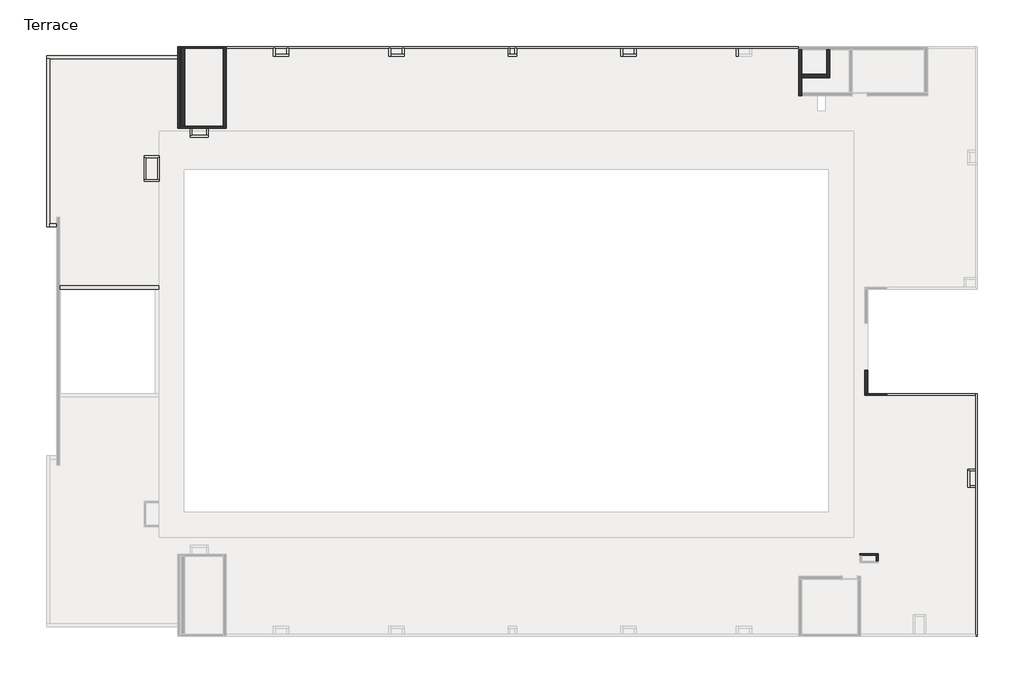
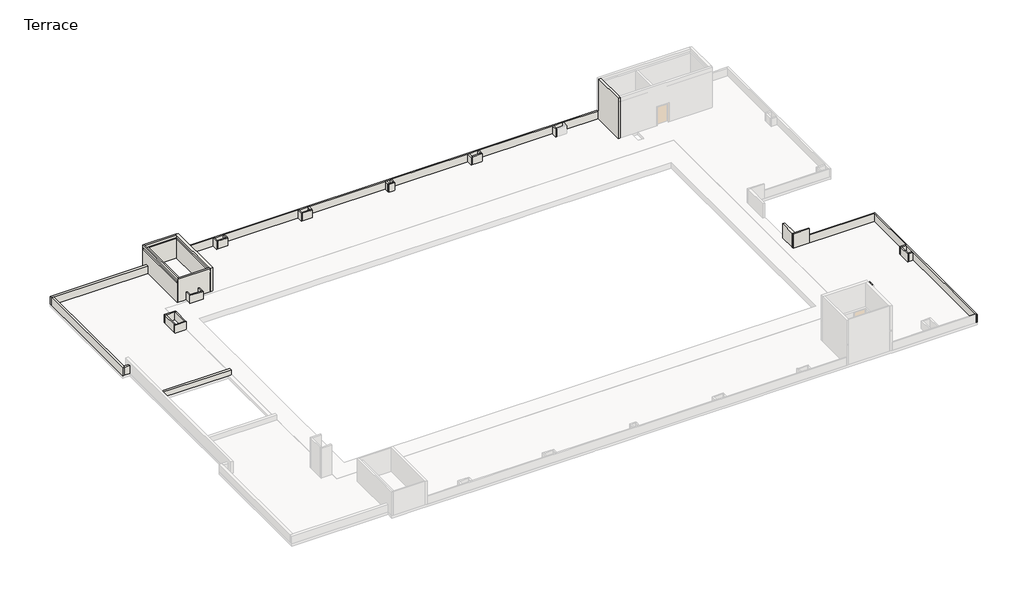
# One storey, part 2 of 3: 42 walls.
"""IFC4 building model written with IfcOpenShell, lengths in millimetres."""

import ifcopenshell
import ifcopenshell.guid

model = None  # the IFC model being written
_history = None  # IfcOwnerHistory: only IFC2X3 demands one
_inside = {}  # id of a spatial element -> (the spatial element, [elements in it])
_under = {}  # id of a project, library or spatial element -> (it, [spatial elements below it])
_declared = {}  # id of a project -> (the project, [libraries it declares])
_typed = {}  # id of a type object -> (the type object, [elements of that type])
_made_of = {}  # id of a material, layer set ... -> (it, [elements and type objects made of it])


def new_model(schema):
    """Start an empty IFC model of exactly this schema.

    Asked for "IFC4X3", IfcOpenShell would pick the latest addendum, in which some entities
    have other attributes; the version numbers below select the first issue.
    IFC2X3 requires an IfcOwnerHistory on every rooted entity: one is made here for all.
    """
    global model, _history
    if schema == "IFC4X3":
        model = ifcopenshell.file(schema_version=(4, 3, 0, 0))
    else:
        model = ifcopenshell.file(schema=schema)
    _inside.clear()
    _under.clear()
    _declared.clear()
    _typed.clear()
    _made_of.clear()
    _history = None
    if model.schema == "IFC2X3":
        org = make("IfcOrganization", Name="unknown")
        user = make(
            "IfcPersonAndOrganization",
            ThePerson=make("IfcPerson", FamilyName="unknown"),
            TheOrganization=org,
        )
        app = make(
            "IfcApplication",
            ApplicationDeveloper=org,
            Version="unknown",
            ApplicationFullName="unknown",
            ApplicationIdentifier="unknown",
        )
        _history = make(
            "IfcOwnerHistory",
            OwningUser=user,
            OwningApplication=app,
            ChangeAction="ADDED",
            CreationDate=0,
        )
    return model


def make(cls, **values):
    """One entity of the class cls with the attributes given. An attribute that is None is left unset."""
    return model.create_entity(
        cls, **{name: value for name, value in values.items() if value is not None}
    )


def rooted(cls, **values):
    """An entity with a GlobalId (a new one), such as an element, a storey or a relation."""
    return make(cls, GlobalId=ifcopenshell.guid.new(), OwnerHistory=_history, **values)


def si_unit(unit_type, name, prefix=None):
    """IfcSIUnit, for example si_unit("LENGTHUNIT", "METRE", prefix="MILLI")."""
    return make("IfcSIUnit", UnitType=unit_type, Prefix=prefix, Name=name)


def assignment(units):
    """IfcUnitAssignment: the units of a project."""
    return None if units is None else make("IfcUnitAssignment", Units=units)


def point(xyz):
    """IfcCartesianPoint."""
    return None if xyz is None else make("IfcCartesianPoint", Coordinates=xyz)


def direction(xyz):
    """IfcDirection."""
    return None if xyz is None else make("IfcDirection", DirectionRatios=xyz)


def frame(location, z_axis=None, x_axis=None):
    """IfcAxis2Placement3D, a coordinate frame: its origin and axes. An axis left out is left unset."""
    return make(
        "IfcAxis2Placement3D",
        Location=point(location),
        Axis=direction(z_axis),
        RefDirection=direction(x_axis),
    )


def origin():
    """The frame at (0, 0, 0) with its axes left unset."""
    return frame((0.0, 0.0, 0.0))


def place(relative_to, where):
    """IfcLocalPlacement: puts the frame where relative to a parent placement (None: the world)."""
    return make(
        "IfcLocalPlacement", PlacementRelTo=relative_to, RelativePlacement=where
    )


def context(
    kind, dimensions, precision=None, world=None, true_north=None, identifier=None
):
    """IfcGeometricRepresentationContext, for example the 3D "Model" context."""
    return make(
        "IfcGeometricRepresentationContext",
        ContextIdentifier=identifier,
        ContextType=kind,
        CoordinateSpaceDimension=dimensions,
        Precision=precision,
        WorldCoordinateSystem=world,
        TrueNorth=true_north,
    )


def project(units=None, contexts=None):
    """IfcProject with its units and contexts."""
    return rooted(
        "IfcProject",
        Name="project",
        RepresentationContexts=contexts,
        UnitsInContext=assignment(units),
    )


def spatial(cls, under=None, at=None, **own):
    """A site, building, storey or space (cls), placed at a placement, below another one or the project."""
    s = rooted(cls, ObjectPlacement=at, **own)
    if under is not None:
        _under.setdefault(under.id(), (under, []))[1].append(s)
    return s


def polyline(points):
    """IfcPolyline through the points."""
    return make("IfcPolyline", Points=[point(p) for p in points])


def outline(outer, holes=None, kind="AREA"):
    """IfcArbitraryClosedProfileDef: a profile drawn as a closed curve; with holes, ...WithVoids."""
    if holes is None:
        return make("IfcArbitraryClosedProfileDef", ProfileType=kind, OuterCurve=outer)
    return make(
        "IfcArbitraryProfileDefWithVoids",
        ProfileType=kind,
        OuterCurve=outer,
        InnerCurves=holes,
    )


def extrude(swept, where, along, depth):
    """IfcExtrudedAreaSolid: the profile swept, set in the frame where, extruded along a direction by depth."""
    return make(
        "IfcExtrudedAreaSolid",
        SweptArea=swept,
        Position=where,
        ExtrudedDirection=direction(along),
        Depth=depth,
    )


def faces_of(points, faces, orient=None, outer=None):
    """IfcFace entities. A face is a list of loops; a loop is a list of indices into points, from 0.

    orient and outer hold one flag for each loop. By default every Orientation is true, the
    first loop of a face is its IfcFaceOuterBound and the others are IfcFaceBound.
    """
    made = []
    for i, loops in enumerate(faces):
        bounds = []
        for j, loop in enumerate(loops):
            is_outer = j == 0 if outer is None else outer[i][j]
            bounds.append(
                make(
                    "IfcFaceOuterBound" if is_outer else "IfcFaceBound",
                    Bound=make("IfcPolyLoop", Polygon=[points[k] for k in loop]),
                    Orientation=True if orient is None else orient[i][j],
                )
            )
        made.append(make("IfcFace", Bounds=bounds))
    return made


def faceted_brep(points, faces, orient=None, outer=None, voids=None):
    """IfcFacetedBrep: a solid bounded by flat faces; with voids (closed shells), ...WithVoids."""
    shared = [point(p) for p in points]
    hull = make("IfcClosedShell", CfsFaces=faces_of(shared, faces, orient, outer))
    if voids is None:
        return make("IfcFacetedBrep", Outer=hull)
    return make(
        "IfcFacetedBrepWithVoids",
        Outer=hull,
        Voids=[
            make(cls, CfsFaces=faces_of(shared, fs, o, b)) for cls, fs, o, b in voids
        ],
    )


def shape(context_of_items, identifier, shape_type, items):
    """IfcShapeRepresentation: the items that make up one representation, for example the "Body"."""
    return make(
        "IfcShapeRepresentation",
        ContextOfItems=context_of_items,
        RepresentationIdentifier=identifier,
        RepresentationType=shape_type,
        Items=items,
    )


def made_of(thing, what):
    """Note that an element or type object is made of a material, layer set ...; save() writes the relation."""
    if what is not None:
        _made_of.setdefault(what.id(), (what, []))[1].append(thing)
    return thing


def element(
    cls,
    number,
    at=None,
    inside=None,
    cuts=None,
    type_object=None,
    material=None,
    context=None,
    identifier="Body",
    shape_type=None,
    held_by="IfcProductDefinitionShape",
    body=None,
    shapes=None,
    **own,
):
    """One element of the class cls, such as IfcWall. Its Tag is "e" and its number.

    at: its placement. inside: the storey or other place that contains it. cuts: it is an
    opening in that element (IfcRelVoidsElement). A single representation is given by context,
    identifier, shape_type and body (its items); several are given by shapes. held_by: the class
    of the entity that holds the representations. save() writes the other relations.
    """
    e = rooted(cls, Tag="e%d" % number, ObjectPlacement=at, **own)
    if body is not None:
        shapes = [shape(context, identifier, shape_type, body)]
    if shapes is not None:
        e.Representation = make(held_by, Representations=shapes)
    if inside is not None:
        _inside.setdefault(inside.id(), (inside, []))[1].append(e)
    if cuts is not None:
        rooted(
            "IfcRelVoidsElement", RelatingBuildingElement=cuts, RelatedOpeningElement=e
        )
    if type_object is not None:
        _typed.setdefault(type_object.id(), (type_object, []))[1].append(e)
    return made_of(e, material)


def aggregate(whole, parts):
    """IfcRelAggregates: a whole, such as a stair, and the parts it consists of."""
    return rooted("IfcRelAggregates", RelatingObject=whole, RelatedObjects=parts)


def save(model, path):
    """Write the relations noted so far, then the file.

    IfcRelAggregates (storeys below a building ...), IfcRelContainedInSpatialStructure (elements
    in a storey), IfcRelDefinesByType, IfcRelAssociatesMaterial and IfcRelDeclares: one each for
    every whole, place, type object, material and project.
    """
    for whole, parts in _under.values():
        aggregate(whole, parts)
    for where, things in _inside.values():
        rooted(
            "IfcRelContainedInSpatialStructure",
            RelatedElements=things,
            RelatingStructure=where,
        )
    for kind, things in _typed.values():
        rooted("IfcRelDefinesByType", RelatedObjects=things, RelatingType=kind)
    for what, things in _made_of.values():
        rooted("IfcRelAssociatesMaterial", RelatedObjects=things, RelatingMaterial=what)
    for by, libraries in _declared.values():
        rooted("IfcRelDeclares", RelatingContext=by, RelatedDefinitions=libraries)
    model.write(path)


model = new_model("IFC4")

# Units and contexts
model_context = context("Model", 3, world=origin())
ifc_project = project(units=[si_unit("LENGTHUNIT", "METRE", prefix="MILLI")], contexts=[model_context])

# Site, building, storey
site = spatial("IfcSite", under=ifc_project)
building = spatial("IfcBuilding", under=site)
storey = spatial("IfcBuildingStorey", under=building, Name="Terrace", Elevation=15000.0)

# Walls
placement = place(None, origin())
element("IfcWall", 1, ObjectType="wall-115", at=placement, inside=storey, context=model_context, shape_type="Brep", body=[
    faceted_brep([(5334.9134101, 20487.3851347, 15000.0), (6014.9134101, 20487.3851347, 15000.0), (6014.9134101, 20487.3851347, 15900.0), (5334.9134101, 20487.3851347, 15900.0), (5334.9134101, 20629.3851347, 15000.0), (5334.9134101, 20629.3851347, 15900.0), (5476.9134101, 20629.3851347, 15900.0), (5872.9134101, 20629.3851347, 15900.0), (6014.9134101, 20629.3851347, 15900.0), (6014.9134101, 20629.3851347, 15000.0), (5872.9134101, 20629.3851347, 15000.0), (5476.9134101, 20629.3851347, 15000.0)], [[[0, 1, 2, 3]], [[4, 5, 6, 7, 8, 9, 10, 11]], [[1, 0, 4, 11, 10, 9]], [[3, 2, 8, 7, 6, 5]], [[0, 3, 5, 4]], [[2, 1, 9, 8]]]),
])
element("IfcWall", 2, ObjectType="wall-115", at=placement, inside=storey, context=model_context, shape_type="Brep", body=[
    faceted_brep([(-22525.5865899, 10624.4013413, 15000.0), (-22667.5865899, 10624.4013413, 15000.0), (-23605.5865898, 10624.4013413, 15000.0), (-23747.5865898, 10624.4013413, 15000.0), (-23747.5865898, 10624.4013413, 15900.0), (-23605.5865898, 10624.4013413, 15900.0), (-22667.5865899, 10624.4013413, 15900.0), (-22525.5865899, 10624.4013413, 15900.0), (-22525.5865899, 10482.4013413, 15000.0), (-22525.5865899, 10482.4013413, 15900.0), (-23747.5865898, 10482.4013413, 15900.0), (-23747.5865898, 10482.4013413, 15000.0)], [[[0, 1, 2, 3, 4, 5, 6, 7]], [[8, 9, 10, 11]], [[3, 2, 1, 0, 8, 11]], [[7, 6, 5, 4, 10, 9]], [[4, 3, 11, 10]], [[0, 7, 9, 8]]]),
])
element("IfcWall", 3, ObjectType="wall-115", at=placement, inside=storey, context=model_context, shape_type="SweptSolid", body=[
    extrude(outline(polyline([(-23605.5865898, 12397.3851348), (-23605.5865898, 10624.4013413), (-23747.5865898, 10624.4013413), (-23747.5865898, 12397.3851348), (-23605.5865898, 12397.3851348)])), frame((0.0, 0.0, 15000.0), z_axis=(0.0, 0.0, 1.0), x_axis=(1.0, 0.0, 0.0)), (0.0, 0.0, 1.0), 900.0),
])
element("IfcWall", 4, ObjectType="wall-115", at=placement, inside=storey, context=model_context, shape_type="Brep", body=[
    faceted_brep([(-22525.5865899, 12539.3851348, 15000.0), (-23747.5865898, 12539.3851348, 15000.0), (-23747.5865898, 12539.3851348, 15900.0), (-22525.5865899, 12539.3851348, 15900.0), (-22525.5865899, 12397.3851348, 15000.0), (-22525.5865899, 12397.3851348, 15900.0), (-22667.5865899, 12397.3851348, 15900.0), (-23605.5865898, 12397.3851348, 15900.0), (-23747.5865898, 12397.3851348, 15900.0), (-23747.5865898, 12397.3851348, 15000.0), (-23605.5865898, 12397.3851348, 15000.0), (-22667.5865899, 12397.3851348, 15000.0)], [[[0, 1, 2, 3]], [[4, 5, 6, 7, 8, 9, 10, 11]], [[1, 0, 4, 11, 10, 9]], [[3, 2, 8, 7, 6, 5]], [[2, 1, 9, 8]], [[0, 3, 5, 4]]]),
])
element("IfcWall", 5, ObjectType="wall-115", at=placement, inside=storey, context=model_context, shape_type="Brep", body=[
    faceted_brep([(42824.4134101, -25834.6148653, 15000.0), (42824.4134101, -6457.6148653, 15000.0), (42824.4134101, -6457.6148653, 15900.0), (42824.4134101, -25834.6148653, 15900.0), (42682.4134101, -25834.6148653, 15000.0), (42682.4134101, -25834.6148653, 15900.0), (42682.4134101, -25692.6148653, 15900.0), (42682.4134101, -13949.6148653, 15900.0), (42682.4134101, -13807.6148653, 15900.0), (42682.4134101, -12637.6148653, 15900.0), (42682.4134101, -12495.6148653, 15900.0), (42682.4134101, -6599.6148653, 15900.0), (42682.4134101, -6457.6148653, 15900.0), (42682.4134101, -6457.6148653, 15000.0), (42682.4134101, -6599.6148653, 15000.0), (42682.4134101, -12495.6148653, 15000.0), (42682.4134101, -12637.6148653, 15000.0), (42682.4134101, -13807.6148653, 15000.0), (42682.4134101, -13949.6148653, 15000.0), (42682.4134101, -25692.6148653, 15000.0)], [[[0, 1, 2, 3]], [[4, 5, 6, 7, 8, 9, 10, 11, 12, 13, 14, 15, 16, 17, 18, 19]], [[1, 0, 4, 19, 18, 17, 16, 15, 14, 13]], [[3, 2, 12, 11, 10, 9, 8, 7, 6, 5]], [[2, 1, 13, 12]], [[0, 3, 5, 4]]]),
])
element("IfcWall", 6, ObjectType="wall-115", at=placement, inside=storey, context=model_context, shape_type="Brep", body=[
    faceted_brep([(42682.4134101, -12495.6148653, 15000.0), (42055.4134101, -12495.6148653, 15000.0), (42055.4134101, -12495.6148653, 15900.0), (42682.4134101, -12495.6148653, 15900.0), (42682.4134101, -12637.6148653, 15000.0), (42682.4134101, -12637.6148653, 15900.0), (42197.4134101, -12637.6148653, 15900.0), (42055.4134101, -12637.6148653, 15900.0), (42055.4134101, -12637.6148653, 15000.0), (42197.4134101, -12637.6148653, 15000.0)], [[[0, 1, 2, 3]], [[4, 5, 6, 7, 8, 9]], [[1, 0, 4, 9, 8]], [[3, 2, 7, 6, 5]], [[2, 1, 8, 7]], [[0, 3, 5, 4]]]),
])
element("IfcWall", 7, ObjectType="wall-115", at=placement, inside=storey, context=model_context, shape_type="Brep", body=[
    faceted_brep([(42055.4134101, -12637.6148653, 15000.0), (42055.4134101, -13949.6148653, 15000.0), (42055.4134101, -13949.6148653, 15900.0), (42055.4134101, -12637.6148653, 15900.0), (42197.4134101, -12637.6148653, 15000.0), (42197.4134101, -12637.6148653, 15900.0), (42197.4134101, -13807.6148653, 15900.0), (42197.4134101, -13949.6148653, 15900.0), (42197.4134101, -13949.6148653, 15000.0), (42197.4134101, -13807.6148653, 15000.0)], [[[0, 1, 2, 3]], [[4, 5, 6, 7, 8, 9]], [[1, 0, 4, 9, 8]], [[3, 2, 7, 6, 5]], [[2, 1, 8, 7]], [[0, 3, 5, 4]]]),
])
element("IfcWall", 8, ObjectType="wall-115", at=placement, inside=storey, context=model_context, shape_type="SweptSolid", body=[
    extrude(outline(polyline([(42682.4134101, -13949.6148653), (42197.4134101, -13949.6148653), (42197.4134101, -13807.6148653), (42682.4134101, -13807.6148653), (42682.4134101, -13949.6148653)])), frame((0.0, 0.0, 15000.0), z_axis=(0.0, 0.0, 1.0), x_axis=(1.0, 0.0, 0.0)), (0.0, 0.0, 1.0), 900.0),
])
element("IfcWall", 9, ObjectType="wall-115", at=placement, inside=storey, context=model_context, shape_type="Brep", body=[
    faceted_brep([(-20909.0865899, 21117.3851347, 15000.0), (-20782.5865899, 21117.3851347, 15000.0), (-20525.5865899, 21117.3851347, 15000.0), (-17449.5865899, 21117.3851347, 15000.0), (-17449.5865899, 21117.3851347, 17250.0), (-20909.0865899, 21117.3851347, 17250.0), (-17449.5865899, 21117.3851347, 17700.0), (-20909.0865899, 21117.3851347, 17700.0), (-20909.0865899, 21117.3851347, 17400.0), (-17449.5865899, 21117.3851347, 17400.0), (-17449.5865899, 21259.3851347, 15000.0), (-20909.0865899, 21259.3851347, 15000.0), (-20909.0865899, 21259.3851347, 17700.0), (-17449.5865899, 21259.3851347, 17700.0), (-20909.0865899, 21247.3851347, 17250.0), (-20909.0865899, 21247.3851347, 17400.0), (-17449.5865899, 21247.3851347, 17400.0), (-17449.5865899, 21247.3851347, 17250.0)], [[[0, 1, 2, 3, 4, 5]], [[6, 7, 8, 9]], [[10, 11, 12, 13]], [[3, 2, 1, 0, 11, 10]], [[7, 6, 13, 12]], [[7, 12, 11, 0, 5, 14, 15, 8]], [[3, 10, 13, 6, 9, 16, 17, 4]], [[17, 14, 5, 4]], [[15, 16, 9, 8]], [[14, 17, 16, 15]]]),
])
element("IfcWall", 10, ObjectType="wall-115", at=placement, inside=storey, context=model_context, shape_type="Brep", body=[
    faceted_brep([(-21051.0865899, 21259.3851347, 15000.0), (-21051.0865899, 21235.3851347, 15000.0), (-21051.0865899, 20534.3851347, 15000.0), (-21051.0865899, 20277.3851347, 15000.0), (-21051.0865899, 14740.3851347, 15000.0), (-21051.0865899, 14740.3851347, 17700.0), (-21051.0865899, 21259.3851347, 17700.0), (-21051.0865899, 14752.3851347, 17250.0), (-21051.0865899, 21247.3851347, 17250.0), (-21051.0865899, 21247.3851347, 17400.0), (-21051.0865899, 14752.3851347, 17400.0), (-20909.0865899, 14740.3851347, 15000.0), (-20909.0865899, 14882.3851347, 15000.0), (-20909.0865899, 21117.3851347, 15000.0), (-20909.0865899, 21259.3851347, 15000.0), (-20909.0865899, 21259.3851347, 17700.0), (-20909.0865899, 21117.3851347, 17700.0), (-20909.0865899, 14882.3851347, 17700.0), (-20909.0865899, 14740.3851347, 17700.0), (-20909.0865899, 21247.3851347, 17250.0), (-20909.0865899, 21117.3851347, 17250.0), (-20909.0865899, 14882.3851347, 17250.0), (-20909.0865899, 14752.3851347, 17250.0), (-20909.0865899, 14752.3851347, 17400.0), (-20909.0865899, 14882.3851347, 17400.0), (-20909.0865899, 21117.3851347, 17400.0), (-20909.0865899, 21247.3851347, 17400.0)], [[[0, 1, 2, 3, 4, 5, 6], [7, 8, 9, 10]], [[11, 12, 13, 14, 15, 16, 17, 18], [19, 20, 21, 22, 23, 24, 25, 26]], [[4, 3, 2, 1, 0, 14, 13, 12, 11]], [[6, 5, 18, 17, 16, 15]], [[0, 6, 15, 14]], [[5, 4, 11, 18]], [[19, 8, 7, 22, 21, 20]], [[23, 10, 9, 26, 25, 24]], [[22, 7, 10, 23]], [[8, 19, 26, 9]]]),
])
element("IfcWall", 11, ObjectType="wall-115", at=placement, inside=storey, context=model_context, shape_type="SweptSolid", body=[
    extrude(outline(polyline([(5334.9134101, 20629.3851347), (5334.9134101, 21117.3851347), (5476.9134101, 21117.3851347), (5476.9134101, 20629.3851347), (5334.9134101, 20629.3851347)])), frame((0.0, 0.0, 15000.0), z_axis=(0.0, 0.0, 1.0), x_axis=(1.0, 0.0, 0.0)), (0.0, 0.0, 1.0), 900.0),
])
element("IfcWall", 12, ObjectType="wall-115", at=placement, inside=storey, context=model_context, shape_type="SweptSolid", body=[
    extrude(outline(polyline([(6014.9134101, 21117.3851347), (6014.9134101, 20629.3851347), (5872.9134101, 20629.3851347), (5872.9134101, 21117.3851347), (6014.9134101, 21117.3851347)])), frame((0.0, 0.0, 15000.0), z_axis=(0.0, 0.0, 1.0), x_axis=(1.0, 0.0, 0.0)), (0.0, 0.0, 1.0), 900.0),
])
element("IfcWall", 13, ObjectType="wall-115", at=placement, inside=storey, context=model_context, shape_type="Brep", body=[
    faceted_brep([(-17192.5865899, 21117.3851347, 15000.0), (-13437.5865899, 21117.3851347, 15000.0), (-13295.5865899, 21117.3851347, 15000.0), (-12349.5865899, 21117.3851347, 15000.0), (-12207.5865899, 21117.3851347, 15000.0), (-4207.5865899, 21117.3851347, 15000.0), (-4065.5865899, 21117.3851347, 15000.0), (-3119.5865899, 21117.3851347, 15000.0), (-2977.5865899, 21117.3851347, 15000.0), (5334.9134101, 21117.3851347, 15000.0), (5476.9134101, 21117.3851347, 15000.0), (5872.9134101, 21117.3851347, 15000.0), (6014.9134101, 21117.3851347, 15000.0), (14327.4134101, 21117.3851347, 15000.0), (14469.4134101, 21117.3851347, 15000.0), (15415.4134101, 21117.3851347, 15000.0), (15557.4134101, 21117.3851347, 15000.0), (23557.4134101, 21117.3851347, 15000.0), (23699.4134101, 21117.3851347, 15000.0), (24645.4134101, 21117.3851347, 15000.0), (24787.4134101, 21117.3851347, 15000.0), (28542.4134101, 21117.3851347, 15000.0), (28670.9134101, 21117.3851347, 15000.0), (28670.9134101, 21117.3851347, 15900.0), (28542.4134101, 21117.3851347, 15900.0), (24787.4134101, 21117.3851347, 15900.0), (24645.4134101, 21117.3851347, 15900.0), (23699.4134101, 21117.3851347, 15900.0), (23557.4134101, 21117.3851347, 15900.0), (15557.4134101, 21117.3851347, 15900.0), (15415.4134101, 21117.3851347, 15900.0), (14469.4134101, 21117.3851347, 15900.0), (14327.4134101, 21117.3851347, 15900.0), (6014.9134101, 21117.3851347, 15900.0), (5872.9134101, 21117.3851347, 15900.0), (5476.9134101, 21117.3851347, 15900.0), (5334.9134101, 21117.3851347, 15900.0), (-2977.5865899, 21117.3851347, 15900.0), (-3119.5865899, 21117.3851347, 15900.0), (-4065.5865899, 21117.3851347, 15900.0), (-4207.5865899, 21117.3851347, 15900.0), (-12207.5865899, 21117.3851347, 15900.0), (-12349.5865899, 21117.3851347, 15900.0), (-13295.5865899, 21117.3851347, 15900.0), (-13437.5865899, 21117.3851347, 15900.0), (-17192.5865899, 21117.3851347, 15900.0), (-17192.5865899, 21259.3851347, 15000.0), (-17192.5865899, 21259.3851347, 15900.0), (28542.4134101, 21259.3851347, 15900.0), (28670.9134101, 21259.3851347, 15900.0), (28670.9134101, 21259.3851347, 15000.0)], [[[0, 1, 2, 3, 4, 5, 6, 7, 8, 9, 10, 11, 12, 13, 14, 15, 16, 17, 18, 19, 20, 21, 22, 23, 24, 25, 26, 27, 28, 29, 30, 31, 32, 33, 34, 35, 36, 37, 38, 39, 40, 41, 42, 43, 44, 45]], [[46, 47, 48, 49, 50]], [[22, 21, 20, 19, 18, 17, 16, 15, 14, 13, 12, 11, 10, 9, 8, 7, 6, 5, 4, 3, 2, 1, 0, 46, 50]], [[23, 22, 50, 49]], [[45, 44, 43, 42, 41, 40, 39, 38, 37, 36, 35, 34, 33, 32, 31, 30, 29, 28, 27, 26, 25, 24, 23, 49, 48, 47]], [[0, 45, 47, 46]]]),
])
element("IfcWall", 14, ObjectType="wall-115", at=placement, inside=storey, context=model_context, shape_type="Brep", body=[
    faceted_brep([(33820.4134101, -6599.6148653, 15000.0), (35592.4134101, -6599.6148653, 15000.0), (35592.4134101, -6599.6148653, 15900.0), (35592.4134101, -6599.6148653, 16650.0), (33820.4134101, -6599.6148653, 16650.0), (33820.4134101, -6457.6148653, 15000.0), (33820.4134101, -6457.6148653, 16650.0), (34077.4134101, -6457.6148653, 16650.0), (35592.4134101, -6457.6148653, 16650.0), (35592.4134101, -6457.6148653, 15900.0), (35592.4134101, -6457.6148653, 15000.0), (34077.4134101, -6457.6148653, 15000.0)], [[[0, 1, 2, 3, 4]], [[5, 6, 7, 8, 9, 10, 11]], [[1, 0, 5, 11, 10]], [[3, 2, 1, 10, 9, 8]], [[4, 3, 8, 7, 6]], [[0, 4, 6, 5]]]),
])
element("IfcWall", 15, ObjectType="wall-115", at=placement, inside=storey, context=model_context, shape_type="Brep", body=[
    faceted_brep([(33432.4134101, -19387.6148653, 15000.0), (33574.4134101, -19387.6148653, 15000.0), (34747.4134101, -19387.6148653, 15000.0), (34889.4134101, -19387.6148653, 15000.0), (34889.4134101, -19387.6148653, 18450.0), (34747.4134101, -19387.6148653, 18450.0), (33574.4134101, -19387.6148653, 18450.0), (33432.4134101, -19387.6148653, 18450.0), (33432.4134101, -19245.6148653, 15000.0), (33432.4134101, -19245.6148653, 18450.0), (34889.4134101, -19245.6148653, 18450.0), (34889.4134101, -19245.6148653, 15000.0)], [[[0, 1, 2, 3, 4, 5, 6, 7]], [[8, 9, 10, 11]], [[3, 2, 1, 0, 8, 11]], [[7, 6, 5, 4, 10, 9]], [[4, 3, 11, 10]], [[0, 7, 9, 8]]]),
])
element("IfcWall", 16, ObjectType="wall-115", at=placement, inside=storey, context=model_context, shape_type="SweptSolid", body=[
    extrude(outline(polyline([(34747.4134101, -19845.6148653), (34747.4134101, -19387.6148653), (34889.4134101, -19387.6148653), (34889.4134101, -19845.6148653), (34747.4134101, -19845.6148653)])), frame((0.0, 0.0, 15000.0), z_axis=(0.0, 0.0, 1.0), x_axis=(1.0, 0.0, 0.0)), (0.0, 0.0, 1.0), 3450.0),
])
element("IfcWall", 17, ObjectType="wall-115", at=placement, inside=storey, context=model_context, shape_type="Brep", body=[
    faceted_brep([(-4207.5865899, 21117.3851347, 15000.0), (-4207.5865899, 20487.3851347, 15000.0), (-4207.5865899, 20487.3851347, 15900.0), (-4207.5865899, 21117.3851347, 15900.0), (-4065.5865899, 21117.3851347, 15000.0), (-4065.5865899, 21117.3851347, 15900.0), (-4065.5865899, 20629.3851347, 15900.0), (-4065.5865899, 20487.3851347, 15900.0), (-4065.5865899, 20487.3851347, 15000.0), (-4065.5865899, 20629.3851347, 15000.0)], [[[0, 1, 2, 3]], [[4, 5, 6, 7, 8, 9]], [[1, 0, 4, 9, 8]], [[3, 2, 7, 6, 5]], [[2, 1, 8, 7]], [[0, 3, 5, 4]]]),
])
element("IfcWall", 18, ObjectType="wall-115", at=placement, inside=storey, context=model_context, shape_type="Brep", body=[
    faceted_brep([(-4065.5865899, 20487.3851347, 15000.0), (-2977.5865899, 20487.3851347, 15000.0), (-2977.5865899, 20487.3851347, 15900.0), (-4065.5865899, 20487.3851347, 15900.0), (-4065.5865899, 20629.3851347, 15000.0), (-4065.5865899, 20629.3851347, 15900.0), (-3119.5865899, 20629.3851347, 15900.0), (-2977.5865899, 20629.3851347, 15900.0), (-2977.5865899, 20629.3851347, 15000.0), (-3119.5865899, 20629.3851347, 15000.0)], [[[0, 1, 2, 3]], [[4, 5, 6, 7, 8, 9]], [[1, 0, 4, 9, 8]], [[3, 2, 7, 6, 5]], [[0, 3, 5, 4]], [[2, 1, 8, 7]]]),
])
element("IfcWall", 19, ObjectType="wall-115", at=placement, inside=storey, context=model_context, shape_type="SweptSolid", body=[
    extrude(outline(polyline([(-2977.5865899, 21117.3851347), (-2977.5865899, 20629.3851347), (-3119.5865899, 20629.3851347), (-3119.5865899, 21117.3851347), (-2977.5865899, 21117.3851347)])), frame((0.0, 0.0, 15000.0), z_axis=(0.0, 0.0, 1.0), x_axis=(1.0, 0.0, 0.0)), (0.0, 0.0, 1.0), 900.0),
])
element("IfcWall", 20, ObjectType="wall-115", at=placement, inside=storey, context=model_context, shape_type="Brep", body=[
    faceted_brep([(-13437.5865899, 21117.3851347, 15000.0), (-13437.5865899, 20487.3851347, 15000.0), (-13437.5865899, 20487.3851347, 15900.0), (-13437.5865899, 21117.3851347, 15900.0), (-13295.5865899, 21117.3851347, 15000.0), (-13295.5865899, 21117.3851347, 15900.0), (-13295.5865899, 20629.3851347, 15900.0), (-13295.5865899, 20487.3851347, 15900.0), (-13295.5865899, 20487.3851347, 15000.0), (-13295.5865899, 20629.3851347, 15000.0)], [[[0, 1, 2, 3]], [[4, 5, 6, 7, 8, 9]], [[1, 0, 4, 9, 8]], [[3, 2, 7, 6, 5]], [[2, 1, 8, 7]], [[0, 3, 5, 4]]]),
])
element("IfcWall", 21, ObjectType="wall-115", at=placement, inside=storey, context=model_context, shape_type="Brep", body=[
    faceted_brep([(-13295.5865899, 20487.3851347, 15000.0), (-12207.5865899, 20487.3851347, 15000.0), (-12207.5865899, 20487.3851347, 15900.0), (-13295.5865899, 20487.3851347, 15900.0), (-13295.5865899, 20629.3851347, 15000.0), (-13295.5865899, 20629.3851347, 15900.0), (-12349.5865899, 20629.3851347, 15900.0), (-12207.5865899, 20629.3851347, 15900.0), (-12207.5865899, 20629.3851347, 15000.0), (-12349.5865899, 20629.3851347, 15000.0)], [[[0, 1, 2, 3]], [[4, 5, 6, 7, 8, 9]], [[1, 0, 4, 9, 8]], [[3, 2, 7, 6, 5]], [[0, 3, 5, 4]], [[2, 1, 8, 7]]]),
])
element("IfcWall", 22, ObjectType="wall-115", at=placement, inside=storey, context=model_context, shape_type="SweptSolid", body=[
    extrude(outline(polyline([(-12207.5865899, 21117.3851347), (-12207.5865899, 20629.3851347), (-12349.5865899, 20629.3851347), (-12349.5865899, 21117.3851347), (-12207.5865899, 21117.3851347)])), frame((0.0, 0.0, 15000.0), z_axis=(0.0, 0.0, 1.0), x_axis=(1.0, 0.0, 0.0)), (0.0, 0.0, 1.0), 900.0),
])
element("IfcWall", 23, ObjectType="wall-115", at=placement, inside=storey, context=model_context, shape_type="Brep", body=[
    faceted_brep([(14327.4134101, 21117.3851347, 15000.0), (14327.4134101, 20487.3851347, 15000.0), (14327.4134101, 20487.3851347, 15900.0), (14327.4134101, 21117.3851347, 15900.0), (14469.4134101, 21117.3851347, 15000.0), (14469.4134101, 21117.3851347, 15900.0), (14469.4134101, 20629.3851347, 15900.0), (14469.4134101, 20487.3851347, 15900.0), (14469.4134101, 20487.3851347, 15000.0), (14469.4134101, 20629.3851347, 15000.0)], [[[0, 1, 2, 3]], [[4, 5, 6, 7, 8, 9]], [[1, 0, 4, 9, 8]], [[3, 2, 7, 6, 5]], [[2, 1, 8, 7]], [[0, 3, 5, 4]]]),
])
element("IfcWall", 24, ObjectType="wall-115", at=placement, inside=storey, context=model_context, shape_type="Brep", body=[
    faceted_brep([(14469.4134101, 20487.3851347, 15000.0), (15557.4134101, 20487.3851347, 15000.0), (15557.4134101, 20487.3851347, 15900.0), (14469.4134101, 20487.3851347, 15900.0), (14469.4134101, 20629.3851347, 15000.0), (14469.4134101, 20629.3851347, 15900.0), (15415.4134101, 20629.3851347, 15900.0), (15557.4134101, 20629.3851347, 15900.0), (15557.4134101, 20629.3851347, 15000.0), (15415.4134101, 20629.3851347, 15000.0)], [[[0, 1, 2, 3]], [[4, 5, 6, 7, 8, 9]], [[1, 0, 4, 9, 8]], [[3, 2, 7, 6, 5]], [[2, 1, 8, 7]], [[0, 3, 5, 4]]]),
])
element("IfcWall", 25, ObjectType="wall-115", at=placement, inside=storey, context=model_context, shape_type="SweptSolid", body=[
    extrude(outline(polyline([(15557.4134101, 21117.3851347), (15557.4134101, 20629.3851347), (15415.4134101, 20629.3851347), (15415.4134101, 21117.3851347), (15557.4134101, 21117.3851347)])), frame((0.0, 0.0, 15000.0), z_axis=(0.0, 0.0, 1.0), x_axis=(1.0, 0.0, 0.0)), (0.0, 0.0, 1.0), 900.0),
])
element("IfcWall", 26, ObjectType="wall-115", at=placement, inside=storey, context=model_context, shape_type="Brep", body=[
    faceted_brep([(23557.4134101, 21117.3851347, 15000.0), (23557.4134101, 20487.3851347, 15000.0), (23557.4134101, 20487.3851347, 15900.0), (23557.4134101, 21117.3851347, 15900.0), (23699.4134101, 21117.3851347, 15000.0), (23699.4134101, 21117.3851347, 15900.0), (23699.4134101, 20629.3851347, 15900.0), (23699.4134101, 20487.3851347, 15900.0), (23699.4134101, 20487.3851347, 15000.0), (23699.4134101, 20629.3851347, 15000.0)], [[[0, 1, 2, 3]], [[4, 5, 6, 7, 8, 9]], [[1, 0, 4, 9, 8]], [[3, 2, 7, 6, 5]], [[2, 1, 8, 7]], [[0, 3, 5, 4]]]),
])
element("IfcWall", 27, ObjectType="wall-115", at=placement, inside=storey, context=model_context, shape_type="Brep", body=[
    faceted_brep([(-20909.0865899, 14740.3851347, 15000.0), (-20079.5865899, 14740.3851347, 15000.0), (-19937.5865899, 14740.3851347, 15000.0), (-18764.5865899, 14740.3851347, 15000.0), (-18622.5865899, 14740.3851347, 15000.0), (-17449.5865899, 14740.3851347, 15000.0), (-17449.5865899, 14740.3851347, 17700.0), (-20909.0865899, 14740.3851347, 17700.0), (-17449.5865899, 14882.3851347, 15000.0), (-20525.5865899, 14882.3851347, 15000.0), (-20782.5865899, 14882.3851347, 15000.0), (-20909.0865899, 14882.3851347, 15000.0), (-20909.0865899, 14882.3851347, 17250.0), (-17449.5865899, 14882.3851347, 17250.0), (-20909.0865899, 14882.3851347, 17700.0), (-17449.5865899, 14882.3851347, 17700.0), (-17449.5865899, 14882.3851347, 17400.0), (-20909.0865899, 14882.3851347, 17400.0), (-20909.0865899, 14752.3851347, 17400.0), (-20909.0865899, 14752.3851347, 17250.0), (-17449.5865899, 14752.3851347, 17250.0), (-17449.5865899, 14752.3851347, 17400.0)], [[[0, 1, 2, 3, 4, 5, 6, 7]], [[8, 9, 10, 11, 12, 13]], [[14, 15, 16, 17]], [[5, 4, 3, 2, 1, 0, 11, 10, 9, 8]], [[7, 6, 15, 14]], [[0, 7, 14, 17, 18, 19, 12, 11]], [[6, 5, 8, 13, 20, 21, 16, 15]], [[19, 20, 13, 12]], [[21, 18, 17, 16]], [[20, 19, 18, 21]]]),
])
element("IfcWall", 28, ObjectType="wall-115", at=placement, inside=storey, context=model_context, shape_type="Brep", body=[
    faceted_brep([(-18622.5865899, 14164.3851347, 15000.0), (-18764.5865899, 14164.3851347, 15000.0), (-19937.5865899, 14164.3851347, 15000.0), (-20079.5865899, 14164.3851347, 15000.0), (-20079.5865899, 14164.3851347, 15900.0), (-19937.5865899, 14164.3851347, 15900.0), (-18764.5865899, 14164.3851347, 15900.0), (-18622.5865899, 14164.3851347, 15900.0), (-18622.5865899, 14022.3851347, 15000.0), (-18622.5865899, 14022.3851347, 15900.0), (-20079.5865899, 14022.3851347, 15900.0), (-20079.5865899, 14022.3851347, 15000.0)], [[[0, 1, 2, 3, 4, 5, 6, 7]], [[8, 9, 10, 11]], [[3, 2, 1, 0, 8, 11]], [[7, 6, 5, 4, 10, 9]], [[4, 3, 11, 10]], [[0, 7, 9, 8]]]),
])
element("IfcWall", 29, ObjectType="wall-115", at=placement, inside=storey, context=model_context, shape_type="SweptSolid", body=[
    extrude(outline(polyline([(-18764.5865899, 14164.3851347), (-18764.5865899, 14740.3851347), (-18622.5865899, 14740.3851347), (-18622.5865899, 14164.3851347), (-18764.5865899, 14164.3851347)])), frame((0.0, 0.0, 15000.0), z_axis=(0.0, 0.0, 1.0), x_axis=(1.0, 0.0, 0.0)), (0.0, 0.0, 1.0), 900.0),
])
element("IfcWall", 30, ObjectType="wall-115", at=placement, inside=storey, context=model_context, shape_type="SweptSolid", body=[
    extrude(outline(polyline([(-20079.5865899, 14164.3851347), (-20079.5865899, 14740.3851347), (-19937.5865899, 14740.3851347), (-19937.5865899, 14164.3851347), (-20079.5865899, 14164.3851347)])), frame((0.0, 0.0, 15000.0), z_axis=(0.0, 0.0, 1.0), x_axis=(1.0, 0.0, 0.0)), (0.0, 0.0, 1.0), 900.0),
])
element("IfcWall", 31, ObjectType="wall-115", at=placement, inside=storey, context=model_context, shape_type="SweptSolid", body=[
    extrude(outline(polyline([(-22525.5865899, 12397.3851348), (-22525.5865899, 10624.4013413), (-22667.5865899, 10624.4013413), (-22667.5865899, 12397.3851348), (-22525.5865899, 12397.3851348)])), frame((0.0, 0.0, 15000.0), z_axis=(0.0, 0.0, 1.0), x_axis=(1.0, 0.0, 0.0)), (0.0, 0.0, 1.0), 900.0),
])
element("IfcWall", 32, ObjectType="wall-115", at=placement, inside=storey, context=model_context, shape_type="SweptSolid", body=[
    extrude(outline(polyline([(42682.4134101, -6599.6148653), (35592.4134101, -6599.6148653), (35592.4134101, -6457.6148653), (42682.4134101, -6457.6148653), (42682.4134101, -6599.6148653)])), frame((0.0, 0.0, 15000.0), z_axis=(0.0, 0.0, 1.0), x_axis=(1.0, 0.0, 0.0)), (0.0, 0.0, 1.0), 900.0),
])
element("IfcWall", 33, ObjectType="wall-230", at=placement, inside=storey, context=model_context, shape_type="Brep", body=[
    faceted_brep([(28799.4134101, 17322.3851347, 15000.0), (28799.4134101, 17579.3851347, 15000.0), (28799.4134101, 18772.3851347, 15000.0), (28799.4134101, 19029.3851347, 15000.0), (28799.4134101, 21002.3851347, 15000.0), (28799.4134101, 21002.3851347, 15900.0), (28799.4134101, 21002.3851347, 19200.0), (28799.4134101, 17579.3851347, 19200.0), (28799.4134101, 17337.3851347, 19200.0), (28799.4134101, 17337.3851347, 19350.0), (28799.4134101, 17579.3851347, 19350.0), (28799.4134101, 21002.3851347, 19350.0), (28799.4134101, 21002.3851347, 19650.0), (28799.4134101, 17579.3851347, 19650.0), (28799.4134101, 17322.3851347, 19650.0), (28542.4134101, 21117.3851347, 15000.0), (28542.4134101, 17322.3851347, 15000.0), (28542.4134101, 17322.3851347, 19650.0), (28542.4134101, 21002.3851347, 19650.0), (28542.4134101, 21002.3851347, 15900.0), (28542.4134101, 21117.3851347, 15900.0), (28670.9134101, 21117.3851347, 15000.0), (28670.9134101, 21002.3851347, 15000.0), (28670.9134101, 21002.3851347, 15900.0), (28670.9134101, 21117.3851347, 15900.0), (28557.4134101, 21002.3851347, 19350.0), (28557.4134101, 21002.3851347, 19200.0), (28557.4134101, 17337.3851347, 19200.0), (28557.4134101, 17337.3851347, 19350.0)], [[[0, 1, 2, 3, 4, 5, 6, 7, 8, 9, 10, 11, 12, 13, 14]], [[15, 16, 17, 18, 19, 20]], [[4, 3, 2, 1, 0, 16, 15, 21, 22]], [[14, 13, 12, 18, 17]], [[0, 14, 17, 16]], [[20, 19, 23, 24]], [[5, 4, 22, 23]], [[22, 21, 24, 23]], [[15, 20, 24, 21]], [[19, 18, 12, 11, 25, 26, 6, 5, 23]], [[26, 27, 8, 7, 6]], [[9, 28, 25, 11, 10]], [[27, 28, 9, 8]], [[28, 27, 26, 25]]]),
])
element("IfcWall", 34, ObjectType="wall-230", at=placement, inside=storey, context=model_context, shape_type="Brep", body=[
    faceted_brep([(-22595.0865899, 2142.3851348, 15000.0), (-30492.5865899, 2142.3851348, 15000.0), (-30492.5865899, 2142.3851348, 15600.0), (-22595.0865899, 2142.3851348, 15600.0), (-22595.0865899, 1885.3851348, 15000.0), (-22595.0865899, 1885.3851348, 15600.0), (-30492.5865899, 1885.3851348, 15600.0), (-30492.5865899, 1885.3851348, 15000.0), (-30399.5865899, 1885.3851348, 15000.0), (-22899.5865899, 1885.3851348, 15000.0)], [[[0, 1, 2, 3]], [[4, 5, 6, 7, 8, 9]], [[1, 0, 4, 9, 8, 7]], [[3, 2, 6, 5]], [[0, 3, 5, 4]], [[2, 1, 7, 6]]]),
])
element("IfcWall", 35, ObjectType="wall-230", at=placement, inside=storey, context=model_context, shape_type="Brep", body=[
    faceted_brep([(-17192.5865899, 14740.3851347, 15000.0), (-17192.5865899, 21117.3851347, 15000.0), (-17192.5865899, 21259.3851347, 15000.0), (-17192.5865899, 21259.3851347, 15900.0), (-17192.5865899, 21259.3851347, 17700.0), (-17192.5865899, 14740.3851347, 17700.0), (-17192.5865899, 21247.3851347, 17250.0), (-17192.5865899, 14752.3851347, 17250.0), (-17192.5865899, 14752.3851347, 17400.0), (-17192.5865899, 21247.3851347, 17400.0), (-17449.5865899, 21259.3851347, 15000.0), (-17449.5865899, 21117.3851347, 15000.0), (-17449.5865899, 14882.3851347, 15000.0), (-17449.5865899, 14740.3851347, 15000.0), (-17449.5865899, 14740.3851347, 17700.0), (-17449.5865899, 14882.3851347, 17700.0), (-17449.5865899, 21117.3851347, 17700.0), (-17449.5865899, 21259.3851347, 17700.0), (-17449.5865899, 14752.3851347, 17250.0), (-17449.5865899, 14882.3851347, 17250.0), (-17449.5865899, 21117.3851347, 17250.0), (-17449.5865899, 21247.3851347, 17250.0), (-17449.5865899, 21247.3851347, 17400.0), (-17449.5865899, 21117.3851347, 17400.0), (-17449.5865899, 14882.3851347, 17400.0), (-17449.5865899, 14752.3851347, 17400.0)], [[[0, 1, 2, 3, 4, 5], [6, 7, 8, 9]], [[10, 11, 12, 13, 14, 15, 16, 17], [18, 19, 20, 21, 22, 23, 24, 25]], [[2, 1, 0, 13, 12, 11, 10]], [[5, 4, 17, 16, 15, 14]], [[2, 10, 17, 4, 3]], [[0, 5, 14, 13]], [[6, 21, 20, 19, 18, 7]], [[8, 25, 24, 23, 22, 9]], [[7, 18, 25, 8]], [[21, 6, 9, 22]]]),
])
element("IfcWall", 36, ObjectType="wall-230", at=placement, inside=storey, context=model_context, shape_type="Brep", body=[
    faceted_brep([(-21051.0865899, 20534.3851347, 15000.0), (-31549.5865899, 20534.3851347, 15000.0), (-31549.5865899, 20534.3851347, 15900.0), (-21051.0865899, 20534.3851347, 15900.0), (-21051.0865899, 20277.3851347, 15000.0), (-21051.0865899, 20277.3851347, 15900.0), (-31292.5865899, 20277.3851347, 15900.0), (-31549.5865899, 20277.3851347, 15900.0), (-31549.5865899, 20277.3851347, 15000.0), (-31292.5865899, 20277.3851347, 15000.0)], [[[0, 1, 2, 3]], [[4, 5, 6, 7, 8, 9]], [[1, 0, 4, 9, 8]], [[3, 2, 7, 6, 5]], [[2, 1, 8, 7]], [[0, 3, 5, 4]]]),
])
element("IfcWall", 37, ObjectType="wall-230", at=placement, inside=storey, context=model_context, shape_type="Brep", body=[
    faceted_brep([(-31549.5865899, 20277.3851347, 15000.0), (-31549.5865899, 6862.3851348, 15000.0), (-31549.5865899, 6862.3851348, 15900.0), (-31549.5865899, 20277.3851347, 15900.0), (-31292.5865899, 20277.3851347, 15000.0), (-31292.5865899, 20277.3851347, 15900.0), (-31292.5865899, 7119.3851348, 15900.0), (-31292.5865899, 6862.3851348, 15900.0), (-31292.5865899, 6862.3851348, 15000.0), (-31292.5865899, 7119.3851348, 15000.0)], [[[0, 1, 2, 3]], [[4, 5, 6, 7, 8, 9]], [[1, 0, 4, 9, 8]], [[3, 2, 7, 6, 5]], [[2, 1, 8, 7]], [[0, 3, 5, 4]]]),
])
element("IfcWall", 38, ObjectType="wall-230", at=placement, inside=storey, context=model_context, shape_type="Brep", body=[
    faceted_brep([(30775.4134101, 21002.3851347, 15000.0), (30775.4134101, 19029.3851347, 15000.0), (30775.4134101, 18772.3851347, 15000.0), (30775.4134101, 18772.3851347, 16650.0), (30775.4134101, 19029.3851347, 16650.0), (30775.4134101, 21002.3851347, 16650.0), (31032.4134101, 21002.3851347, 15000.0), (31032.4134101, 21002.3851347, 16650.0), (31032.4134101, 18772.3851347, 16650.0), (31032.4134101, 18772.3851347, 15000.0)], [[[0, 1, 2, 3, 4, 5]], [[6, 7, 8, 9]], [[2, 1, 0, 6, 9]], [[5, 4, 3, 8, 7]], [[3, 2, 9, 8]], [[0, 5, 7, 6]]]),
])
element("IfcWall", 39, ObjectType="wall-230", at=placement, inside=storey, context=model_context, shape_type="SweptSolid", body=[
    extrude(outline(polyline([(28799.4134101, 19029.3851347), (30775.4134101, 19029.3851347), (30775.4134101, 18772.3851347), (28799.4134101, 18772.3851347), (28799.4134101, 19029.3851347)])), frame((0.0, 0.0, 15000.0), z_axis=(0.0, 0.0, 1.0), x_axis=(1.0, 0.0, 0.0)), (0.0, 0.0, 1.0), 1650.0),
])
element("IfcWall", 40, ObjectType="wall-230", at=placement, inside=storey, context=model_context, shape_type="SweptSolid", body=[
    extrude(outline(polyline([(-20525.5865899, 21117.3851347), (-20525.5865899, 14882.3851347), (-20782.5865899, 14882.3851347), (-20782.5865899, 21117.3851347), (-20525.5865899, 21117.3851347)])), frame((0.0, 0.0, 15000.0), z_axis=(0.0, 0.0, 1.0), x_axis=(1.0, 0.0, 0.0)), (0.0, 0.0, 1.0), 2400.0),
])
element("IfcWall", 41, ObjectType="wall-230", at=placement, inside=storey, context=model_context, shape_type="SweptSolid", body=[
    extrude(outline(polyline([(-30749.5865899, 6862.3851348), (-31292.5865899, 6862.3851348), (-31292.5865899, 7119.3851348), (-30749.5865899, 7119.3851348), (-30749.5865899, 6862.3851348)])), frame((0.0, 0.0, 15000.0), z_axis=(0.0, 0.0, 1.0), x_axis=(1.0, 0.0, 0.0)), (0.0, 0.0, 1.0), 900.0),
])
element("IfcWall", 42, ObjectType="wall-230", at=placement, inside=storey, context=model_context, shape_type="SweptSolid", body=[
    extrude(outline(polyline([(33820.4134101, -6457.6148653), (33820.4134101, -4617.6148653), (34077.4134101, -4617.6148653), (34077.4134101, -6457.6148653), (33820.4134101, -6457.6148653)])), frame((0.0, 0.0, 15000.0), z_axis=(0.0, 0.0, 1.0), x_axis=(1.0, 0.0, 0.0)), (0.0, 0.0, 1.0), 1650.0),
])

save(model, "model.ifc")
